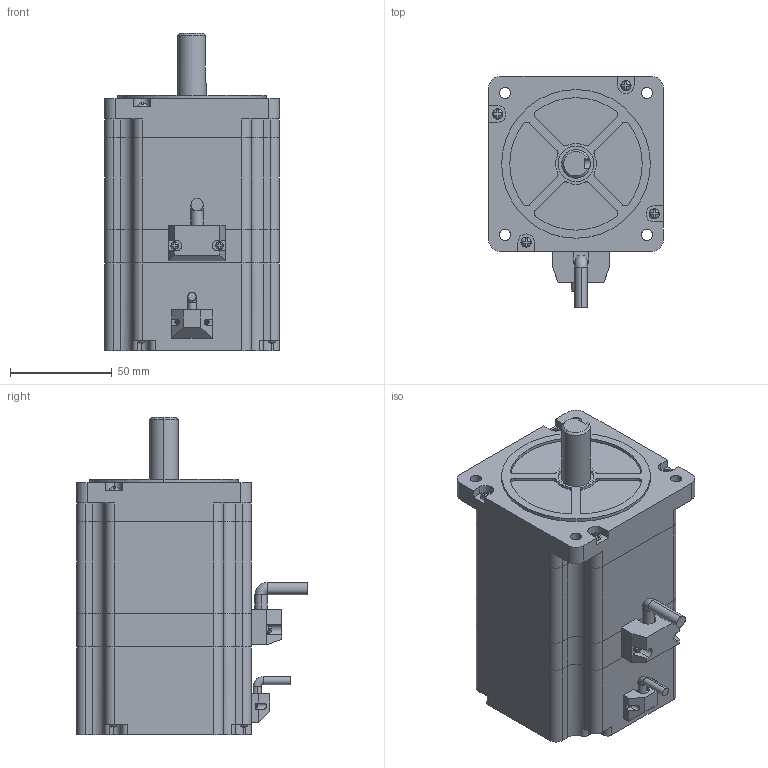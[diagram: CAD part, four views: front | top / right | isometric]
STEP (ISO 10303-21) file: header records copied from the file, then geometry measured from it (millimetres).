
FILE_DESCRIPTION (( 'STEP AP214' ), '1' );
FILE_NAME ('86-80-164.STEP', '2021-08-24T07:18:10', ( 'HP' ), ( 'CZLH' ), 'SwSTEP 2.0', 'SolidWorks 2012', '' );
FILE_SCHEMA (( 'AUTOMOTIVE_DESIGN' ));
Length unit declared in the file: millimetre
Products named in the file (1): 86-80-164
Bounding box: 85.8 x 113.3 x 155.7 mm (x, y, z)
Surface area: 67389.5 mm2 (no closed solid volume)
Topology: 0 solids, 10 shells, 387 faces, 1215 edges, 821 vertices
Faces by surface type: plane 216, cylinder 144, sphere 22, torus 3, cone 2
Entity records: 17725 total; most frequent: DIRECTION 2465, CARTESIAN_POINT 2454, ORIENTED_EDGE 2089, EDGE_CURVE 1203, AXIS2_PLACEMENT_3D 880, VERTEX_POINT 817, VECTOR 705, LINE 705
